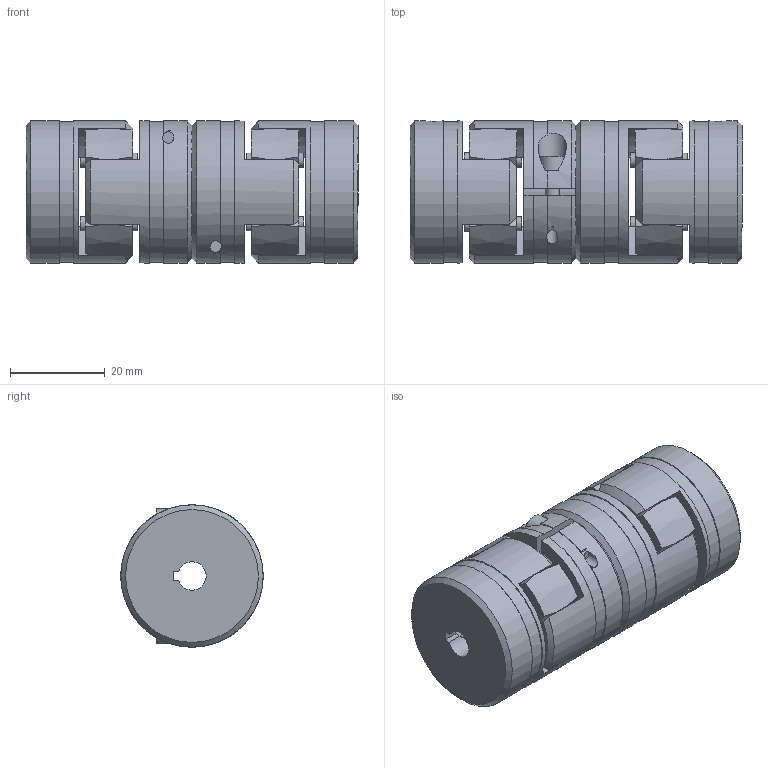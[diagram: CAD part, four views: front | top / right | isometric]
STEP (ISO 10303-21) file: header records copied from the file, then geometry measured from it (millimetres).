
FILE_DESCRIPTION(/* description */ (''),/* implementation_level */ '2;1');
FILE_NAME(/* name */ 'VRRP14-L48-6-PF-6-PF',/* time_stamp */ '2024-01-05T15:30:52+01:00',/* author */ ('M. Horlacher'),/* organization */ (''),/* preprocessor_version */ 'ST-DEVELOPER v20',/* originating_system */ 'Autodesk Inventor 2024',/* authorisation */ '');
FILE_SCHEMA (('AUTOMOTIVE_DESIGN { 1 0 10303 214 3 1 1 }'));
Length unit declared in the file: millimetre
Products named in the file (6): RP STEP; RP14 ø14H7-KL-AL; RP14-Stern-92Shore; RP14-Nabe_2; RP14-Nabe_2_1; VE Rohr Dummy
Assembly tree (7 placements, depth 2):
  RP STEP
    RP14 ø14H7-KL-AL  x2
    RP14-Stern-92Shore  x2
    RP14-Nabe_2
    RP14-Nabe_2_1
    VE Rohr Dummy
Bounding box: 70 x 30 x 30 mm (x, y, z)
Volume: 40273.5 mm3; surface area: 20814.7 mm2
Topology: 9 solids, 9 shells, 194 faces, 494 edges, 328 vertices
Faces by surface type: plane 82, cylinder 66, bspline 32, cone 14
Full cylindrical faces by diameter (mm): 2.4 x2, 3 x10, 3.4 x4, 4 x2, 5.5 x2, 10 x3, 14 x1, 29.6 x2, 30 x4
Entity records: 4796 total; most frequent: CARTESIAN_POINT 1496, ORIENTED_EDGE 650, DIRECTION 629, EDGE_CURVE 325, AXIS2_PLACEMENT_3D 251, VERTEX_POINT 214, EDGE_LOOP 145, CIRCLE 129
